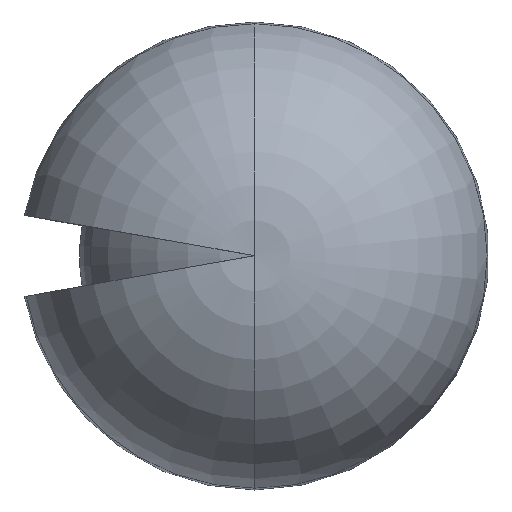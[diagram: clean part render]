
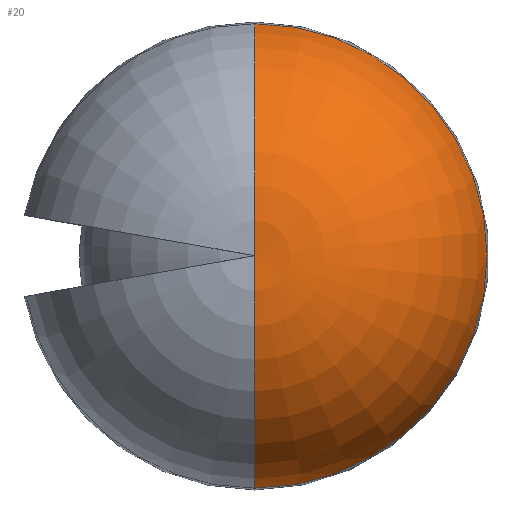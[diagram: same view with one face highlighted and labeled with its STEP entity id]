
A CAD part, top view. The second image highlights one B-rep face of the part: STEP entity #20.
In plain terms, the highlighted toroidal (fillet/blend) face has major radius 340 mm and minor radius 2775.01 mm.
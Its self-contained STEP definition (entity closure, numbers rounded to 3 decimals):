
#20 = ADVANCED_FACE ( 'NONE', ( #575 ), #436, .T. ) ;
#35 = EDGE_CURVE ( 'NONE', #81, #269, #172, .T. ) ;
#69 = CARTESIAN_POINT ( 'NONE',  ( 0., -3072.851, 1261.875 ) ) ;
#81 = VERTEX_POINT ( 'NONE', #280 ) ;
#86 = DIRECTION ( 'NONE',  ( 1., 0., 0. ) ) ;
#96 = DIRECTION ( 'NONE',  ( 0., 0., -1. ) ) ;
#105 = CIRCLE ( 'NONE', #584, 2775.01 ) ;
#134 = ORIENTED_EDGE ( 'NONE', *, *, #35, .F. ) ;
#145 = AXIS2_PLACEMENT_3D ( 'NONE', #506, #86, #414 ) ;
#150 = CARTESIAN_POINT ( 'NONE',  ( 0., 340., 780. ) ) ;
#172 = CIRCLE ( 'NONE', #597, 3072.851 ) ;
#179 = DIRECTION ( 'NONE',  ( 0., 1., 0. ) ) ;
#208 = EDGE_CURVE ( 'NONE', #507, #81, #105, .T. ) ;
#227 = DIRECTION ( 'NONE',  ( 0., 0., -1. ) ) ;
#229 = CARTESIAN_POINT ( 'NONE',  ( 0., 0., 3534.102 ) ) ;
#233 = CIRCLE ( 'NONE', #145, 2775.01 ) ;
#269 = VERTEX_POINT ( 'NONE', #69 ) ;
#280 = CARTESIAN_POINT ( 'NONE',  ( 0., 3072.851, 1261.875 ) ) ;
#287 = CARTESIAN_POINT ( 'NONE',  ( 0., 0., 1261.875 ) ) ;
#321 = CARTESIAN_POINT ( 'NONE',  ( 0., 0., 780. ) ) ;
#342 = DIRECTION ( 'NONE',  ( -1., 0., 0. ) ) ;
#405 = EDGE_LOOP ( 'NONE', ( #611, #432, #134 ) ) ;
#414 = DIRECTION ( 'NONE',  ( 0., 1., 0. ) ) ;
#432 = ORIENTED_EDGE ( 'NONE', *, *, #518, .T. ) ;
#436 = TOROIDAL_SURFACE ( 'NONE', #483, 340., 2775.01 ) ;
#483 = AXIS2_PLACEMENT_3D ( 'NONE', #321, #96, #513 ) ;
#506 = CARTESIAN_POINT ( 'NONE',  ( 0., -340., 780. ) ) ;
#507 = VERTEX_POINT ( 'NONE', #229 ) ;
#513 = DIRECTION ( 'NONE',  ( 0., 1., 0. ) ) ;
#518 = EDGE_CURVE ( 'NONE', #507, #269, #233, .T. ) ;
#575 = FACE_OUTER_BOUND ( 'NONE', #405, .T. ) ;
#584 = AXIS2_PLACEMENT_3D ( 'NONE', #150, #342, #593 ) ;
#593 = DIRECTION ( 'NONE',  ( 0., 0., 1. ) ) ;
#597 = AXIS2_PLACEMENT_3D ( 'NONE', #287, #227, #179 ) ;
#611 = ORIENTED_EDGE ( 'NONE', *, *, #208, .F. ) ;
